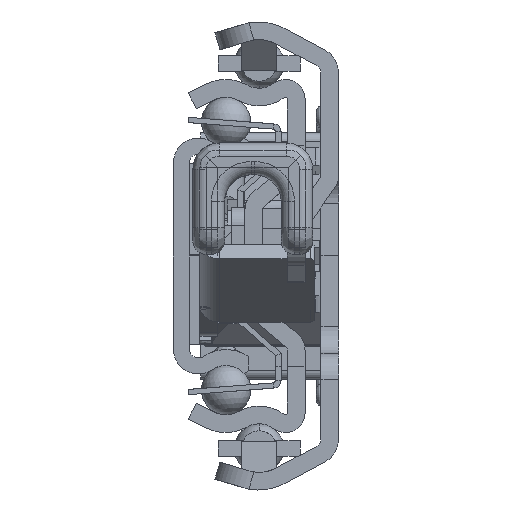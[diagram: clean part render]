
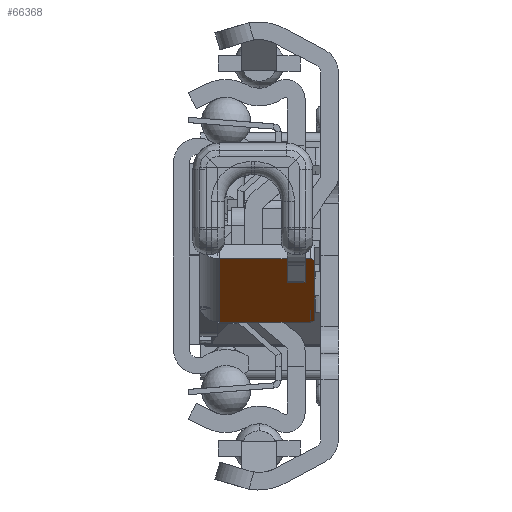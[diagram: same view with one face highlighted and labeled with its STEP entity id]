
A CAD part, left-side view. The second image highlights one B-rep face of the part: STEP entity #66368.
In plain terms, the highlighted planar face has unit normal (-0.597, 0, -0.802) as drawn and (-0.597, -0.802, 0) by its records, which use the part's own axes.
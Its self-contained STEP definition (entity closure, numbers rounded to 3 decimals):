
#65760=DIRECTION('',(0.802,-0.597,0.));
#65761=VECTOR('',#65760,12.);
#65762=CARTESIAN_POINT('',(31.957,-10.314,2.2));
#65763=LINE('',#65762,#65761);
#65788=CARTESIAN_POINT('',(41.184,-17.178,12.5));
#65789=DIRECTION('',(-0.597,-0.802,0.));
#65790=DIRECTION('',(0.802,-0.597,0.));
#65791=AXIS2_PLACEMENT_3D('',#65788,#65789,#65790);
#65793=DIRECTION('',(0.,0.,1.));
#65794=VECTOR('',#65793,10.3);
#65795=CARTESIAN_POINT('',(41.586,-17.476,2.2));
#65796=LINE('',#65795,#65794);
#65797=DIRECTION('',(0.,0.,-1.));
#65798=VECTOR('',#65797,10.3);
#65799=CARTESIAN_POINT('',(31.957,-10.314,12.5));
#65800=LINE('',#65799,#65798);
#65801=CARTESIAN_POINT('',(32.358,-10.613,12.5));
#65802=DIRECTION('',(-0.597,-0.802,0.));
#65803=DIRECTION('',(0.,0.,1.));
#65804=AXIS2_PLACEMENT_3D('',#65801,#65802,#65803);
#65806=DIRECTION('',(-0.802,0.597,0.));
#65807=VECTOR('',#65806,11.);
#65808=CARTESIAN_POINT('',(41.184,-17.178,13.));
#65809=LINE('',#65808,#65807);
#66022=CARTESIAN_POINT('',(31.957,-10.314,2.2));
#66023=CARTESIAN_POINT('',(41.586,-17.476,2.2));
#66024=VERTEX_POINT('',#66022);
#66025=VERTEX_POINT('',#66023);
#66054=CARTESIAN_POINT('',(41.586,-17.476,12.5));
#66055=CARTESIAN_POINT('',(41.184,-17.178,13.));
#66056=VERTEX_POINT('',#66054);
#66057=VERTEX_POINT('',#66055);
#66062=CARTESIAN_POINT('',(32.358,-10.613,13.));
#66063=CARTESIAN_POINT('',(31.957,-10.314,12.5));
#66064=VERTEX_POINT('',#66062);
#66065=VERTEX_POINT('',#66063);
#66350=CARTESIAN_POINT('',(34.726,-12.374,0.));
#66351=DIRECTION('',(-0.597,-0.802,0.));
#66352=DIRECTION('',(0.802,-0.597,0.));
#66353=AXIS2_PLACEMENT_3D('',#66350,#66351,#66352);
#66354=PLANE('',#66353);
#66356=ORIENTED_EDGE('',*,*,#66355,.F.);
#66358=ORIENTED_EDGE('',*,*,#66357,.F.);
#66359=ORIENTED_EDGE('',*,*,#66337,.F.);
#66361=ORIENTED_EDGE('',*,*,#66360,.F.);
#66363=ORIENTED_EDGE('',*,*,#66362,.F.);
#66365=ORIENTED_EDGE('',*,*,#66364,.F.);
#66366=EDGE_LOOP('',(#66356,#66358,#66359,#66361,#66363,#66365));
#66367=FACE_OUTER_BOUND('',#66366,.F.);
#65792=CIRCLE('',#65791,0.5);
#65805=CIRCLE('',#65804,0.5);
#66337=EDGE_CURVE('',#66024,#66025,#65763,.T.);
#66355=EDGE_CURVE('',#66056,#66057,#65792,.T.);
#66357=EDGE_CURVE('',#66025,#66056,#65796,.T.);
#66360=EDGE_CURVE('',#66065,#66024,#65800,.T.);
#66362=EDGE_CURVE('',#66064,#66065,#65805,.T.);
#66364=EDGE_CURVE('',#66057,#66064,#65809,.T.);
#66368=ADVANCED_FACE('',(#66367),#66354,.T.);
